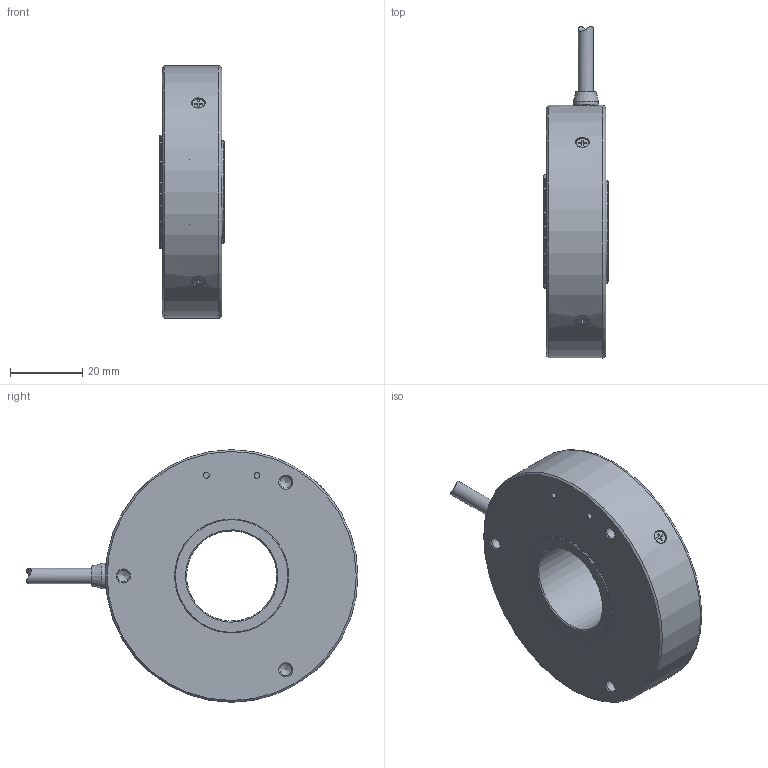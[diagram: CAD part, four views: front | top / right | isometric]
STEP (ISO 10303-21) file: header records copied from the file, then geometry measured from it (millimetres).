
FILE_DESCRIPTION(('STEP AP242'),'1');
FILE_NAME('.stp','2025-08-22T10:12:38',(' '),(' '),'Spatial InterOp 3D',' ',' ');
FILE_SCHEMA(('AP242_MANAGED_MODEL_BASED_3D_ENGINEERING_MIM_LF {1 0 10303 442 1 1 4}'));
Length unit declared in the file: millimetre
Products named in the file (1): L16I03A MAH-59-＊＊＊N1▽
Bounding box: 18 x 91.99 x 70 mm (x, y, z)
Volume: 54340.7 mm3; surface area: 13873 mm2
Topology: 1 solids, 5 shells, 167 faces, 410 edges, 263 vertices
Faces by surface type: plane 86, cylinder 50, cone 28, torus 3
Full cylindrical faces by diameter (mm): 1.6 x6, 3.3 x6, 3.5 x4, 3.8 x4, 4.2 x1, 7 x1, 25 x1, 28.5 x1, 31.6 x1, 35 x1, 70 x1
Entity records: 6234 total; most frequent: CARTESIAN_POINT 1127, DIRECTION 786, ORIENTED_EDGE 658, EDGE_CURVE 329, AXIS2_PLACEMENT_3D 299, VERTEX_POINT 246, EDGE_LOOP 240, FACE_OUTER_BOUND 197
